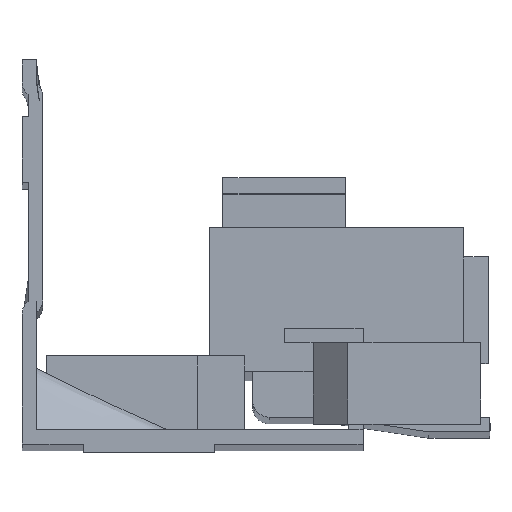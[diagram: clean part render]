
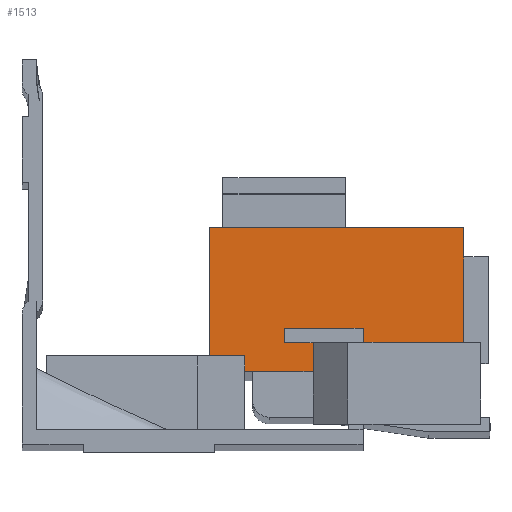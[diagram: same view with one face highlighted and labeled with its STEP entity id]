
A CAD part, front view. The second image highlights one B-rep face of the part: STEP entity #1513.
In plain terms, the highlighted planar face has unit normal (0, -1, 0).
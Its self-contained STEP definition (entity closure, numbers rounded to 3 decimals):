
#553 = PLANE ( 'NONE',  #5387 ) ;
#554 = CARTESIAN_POINT ( 'NONE',  ( 49.9, -20., -27.058 ) ) ;
#555 = DIRECTION ( 'NONE',  ( 0., 1., 0. ) ) ;
#556 = DIRECTION ( 'NONE',  ( 1., 0., 0. ) ) ;
#908 = CARTESIAN_POINT ( 'NONE',  ( 41.6, -20., -23.558 ) ) ;
#934 = CARTESIAN_POINT ( 'NONE',  ( 22.9, -20., -25.181 ) ) ;
#941 = CARTESIAN_POINT ( 'NONE',  ( 53.9, -20., -23.558 ) ) ;
#951 = CARTESIAN_POINT ( 'NONE',  ( 35.5, -20., -27.058 ) ) ;
#959 = CARTESIAN_POINT ( 'NONE',  ( 53.9, -20., -9.558 ) ) ;
#965 = CARTESIAN_POINT ( 'NONE',  ( 22.9, -20., -9.558 ) ) ;
#977 = CARTESIAN_POINT ( 'NONE',  ( 27.15, -20., -25.181 ) ) ;
#978 = CARTESIAN_POINT ( 'NONE',  ( 27.15, -20., -27.058 ) ) ;
#983 = CARTESIAN_POINT ( 'NONE',  ( 32., -20., -23.608 ) ) ;
#1008 = CARTESIAN_POINT ( 'NONE',  ( 41.6, -20., -21.858 ) ) ;
#1016 = CARTESIAN_POINT ( 'NONE',  ( 32., -20., -21.858 ) ) ;
#1018 = CARTESIAN_POINT ( 'NONE',  ( 35.5, -20., -23.608 ) ) ;
#1300 = CARTESIAN_POINT ( 'NONE',  ( 53.9, -20., -9.558 ) ) ;
#1301 = DIRECTION ( 'NONE',  ( 1., 0., 0. ) ) ;
#1322 = CARTESIAN_POINT ( 'NONE',  ( 53.9, -20., -29.558 ) ) ;
#1323 = DIRECTION ( 'NONE',  ( 0., 0., -1. ) ) ;
#1358 = CARTESIAN_POINT ( 'NONE',  ( 49.9, -20., -23.558 ) ) ;
#1359 = DIRECTION ( 'NONE',  ( 1., 0., 0. ) ) ;
#1513 = ADVANCED_FACE ( 'NONE', ( #3944 ), #553, .F. ) ;
#1537 = CARTESIAN_POINT ( 'NONE',  ( 41.6, -20., -35.931 ) ) ;
#1538 = DIRECTION ( 'NONE',  ( 0., 0., -1. ) ) ;
#1551 = CARTESIAN_POINT ( 'NONE',  ( 49.9, -20., -27.058 ) ) ;
#1552 = DIRECTION ( 'NONE',  ( -1., 0., 0. ) ) ;
#1553 = CARTESIAN_POINT ( 'NONE',  ( 35.5, -20., -27.058 ) ) ;
#1554 = DIRECTION ( 'NONE',  ( 0., 0., -1. ) ) ;
#1555 = CARTESIAN_POINT ( 'NONE',  ( 32., -20., -23.608 ) ) ;
#1556 = DIRECTION ( 'NONE',  ( -1., 0., 0. ) ) ;
#1557 = CARTESIAN_POINT ( 'NONE',  ( 32., -20., -21.831 ) ) ;
#1558 = DIRECTION ( 'NONE',  ( 0., 0., 1. ) ) ;
#1559 = CARTESIAN_POINT ( 'NONE',  ( 41.6, -20., -21.858 ) ) ;
#1560 = DIRECTION ( 'NONE',  ( 1., 0., 0. ) ) ;
#1561 = CARTESIAN_POINT ( 'NONE',  ( 22.9, -20., -27.058 ) ) ;
#1562 = DIRECTION ( 'NONE',  ( 0., 0., 1. ) ) ;
#1563 = CARTESIAN_POINT ( 'NONE',  ( 49.9, -20., -25.181 ) ) ;
#1564 = DIRECTION ( 'NONE',  ( -1., 0., 0. ) ) ;
#1565 = CARTESIAN_POINT ( 'NONE',  ( 27.15, -20., -27.058 ) ) ;
#1566 = DIRECTION ( 'NONE',  ( 0., 0., 1. ) ) ;
#2329 = VERTEX_POINT ( 'NONE', #908 ) ;
#2355 = VERTEX_POINT ( 'NONE', #934 ) ;
#2362 = VERTEX_POINT ( 'NONE', #941 ) ;
#2372 = VERTEX_POINT ( 'NONE', #951 ) ;
#2380 = VERTEX_POINT ( 'NONE', #959 ) ;
#2386 = VERTEX_POINT ( 'NONE', #965 ) ;
#2398 = VERTEX_POINT ( 'NONE', #977 ) ;
#2399 = VERTEX_POINT ( 'NONE', #978 ) ;
#2404 = VERTEX_POINT ( 'NONE', #983 ) ;
#2429 = VERTEX_POINT ( 'NONE', #1008 ) ;
#2437 = VERTEX_POINT ( 'NONE', #1016 ) ;
#2439 = VERTEX_POINT ( 'NONE', #1018 ) ;
#3123 = EDGE_CURVE ( 'NONE', #2386, #2380, #4312, .T. ) ;
#3134 = EDGE_CURVE ( 'NONE', #2380, #2362, #4356, .T. ) ;
#3152 = EDGE_CURVE ( 'NONE', #2329, #2362, #4428, .T. ) ;
#3177 = EDGE_CURVE ( 'NONE', #2429, #2329, #4528, .T. ) ;
#3184 = EDGE_CURVE ( 'NONE', #2372, #2399, #4556, .T. ) ;
#3185 = EDGE_CURVE ( 'NONE', #2439, #2372, #4560, .T. ) ;
#3186 = EDGE_CURVE ( 'NONE', #2439, #2404, #4564, .T. ) ;
#3187 = EDGE_CURVE ( 'NONE', #2404, #2437, #4568, .T. ) ;
#3188 = EDGE_CURVE ( 'NONE', #2437, #2429, #4572, .T. ) ;
#3189 = EDGE_CURVE ( 'NONE', #2355, #2386, #4576, .T. ) ;
#3190 = EDGE_CURVE ( 'NONE', #2398, #2355, #4580, .T. ) ;
#3191 = EDGE_CURVE ( 'NONE', #2399, #2398, #4584, .T. ) ;
#3558 = ORIENTED_EDGE ( 'NONE', *, *, #3191, .F. ) ;
#3559 = ORIENTED_EDGE ( 'NONE', *, *, #3190, .F. ) ;
#3560 = ORIENTED_EDGE ( 'NONE', *, *, #3189, .F. ) ;
#3561 = ORIENTED_EDGE ( 'NONE', *, *, #3123, .F. ) ;
#3562 = ORIENTED_EDGE ( 'NONE', *, *, #3134, .F. ) ;
#3563 = ORIENTED_EDGE ( 'NONE', *, *, #3152, .T. ) ;
#3564 = ORIENTED_EDGE ( 'NONE', *, *, #3177, .T. ) ;
#3565 = ORIENTED_EDGE ( 'NONE', *, *, #3188, .T. ) ;
#3566 = ORIENTED_EDGE ( 'NONE', *, *, #3187, .T. ) ;
#3567 = ORIENTED_EDGE ( 'NONE', *, *, #3186, .T. ) ;
#3568 = ORIENTED_EDGE ( 'NONE', *, *, #3185, .F. ) ;
#3569 = ORIENTED_EDGE ( 'NONE', *, *, #3184, .F. ) ;
#3944 = FACE_OUTER_BOUND ( 'NONE', #4221, .T. ) ;
#4221 = EDGE_LOOP ( 'NONE', ( #3569, #3568, #3567, #3566, #3565, #3564, #3563, #3562, #3561, #3560, #3559, #3558 ) ) ;
#4312 = LINE ( 'NONE', #1300, #4314 ) ;
#4314 = VECTOR ( 'NONE', #1301, 1000. ) ;
#4356 = LINE ( 'NONE', #1322, #4358 ) ;
#4358 = VECTOR ( 'NONE', #1323, 1000. ) ;
#4428 = LINE ( 'NONE', #1358, #4430 ) ;
#4430 = VECTOR ( 'NONE', #1359, 1000. ) ;
#4528 = LINE ( 'NONE', #1537, #4530 ) ;
#4530 = VECTOR ( 'NONE', #1538, 1000. ) ;
#4556 = LINE ( 'NONE', #1551, #4558 ) ;
#4558 = VECTOR ( 'NONE', #1552, 1000. ) ;
#4560 = LINE ( 'NONE', #1553, #4562 ) ;
#4562 = VECTOR ( 'NONE', #1554, 1000. ) ;
#4564 = LINE ( 'NONE', #1555, #4566 ) ;
#4566 = VECTOR ( 'NONE', #1556, 1000. ) ;
#4568 = LINE ( 'NONE', #1557, #4570 ) ;
#4570 = VECTOR ( 'NONE', #1558, 1000. ) ;
#4572 = LINE ( 'NONE', #1559, #4574 ) ;
#4574 = VECTOR ( 'NONE', #1560, 1000. ) ;
#4576 = LINE ( 'NONE', #1561, #4578 ) ;
#4578 = VECTOR ( 'NONE', #1562, 1000. ) ;
#4580 = LINE ( 'NONE', #1563, #4582 ) ;
#4582 = VECTOR ( 'NONE', #1564, 1000. ) ;
#4584 = LINE ( 'NONE', #1565, #4586 ) ;
#4586 = VECTOR ( 'NONE', #1566, 1000. ) ;
#5387 = AXIS2_PLACEMENT_3D ( 'NONE', #554, #555, #556 ) ;
